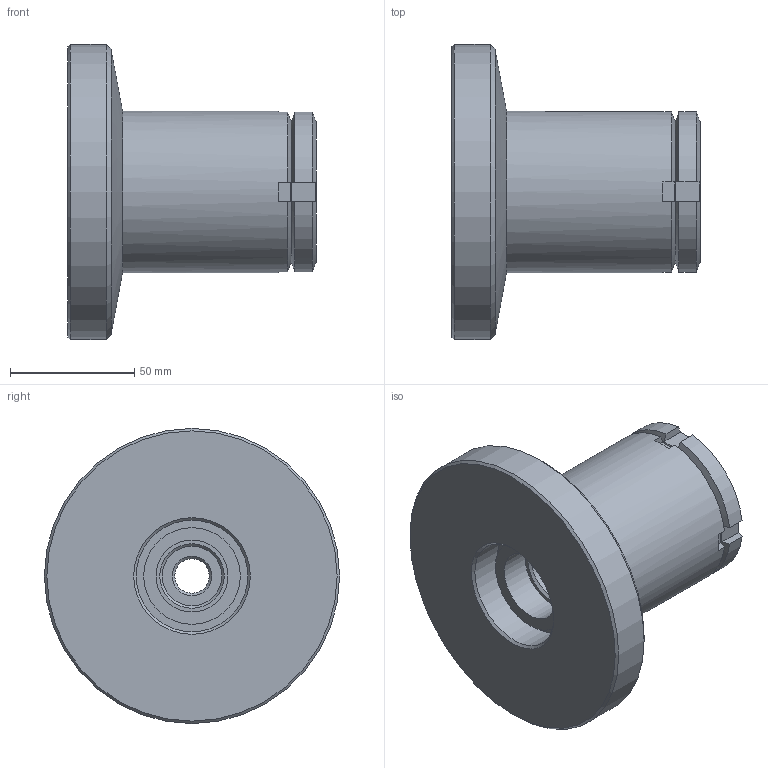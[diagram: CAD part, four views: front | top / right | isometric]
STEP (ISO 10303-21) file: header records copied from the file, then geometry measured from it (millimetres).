
FILE_DESCRIPTION( ( 'STEP AP203' ), '1' );
FILE_NAME( 'C:/Temp/Ganter_Step_05_03_2020/data/3_2/gn360/gn360_st/Levelling set GN 360-119-M16-148-A-ST (0-0).stp', '2020-03-13T05:41:51', ( 'License CC BY-ND 4.0' ), ( 'CADENAS' ), ' ', 'PARTsolutions', ' ' );
FILE_SCHEMA( ( 'CONFIG_CONTROL_DESIGN' ) );
Length unit declared in the file: millimetre
Products named in the file (4): Levelling set GN 360-119-M16-148-A-ST (0-0); _Levelling set GN 360-119-M16-148-A-ST (0-0)-1; _Levelling set GN 360-119-M16-148-A-ST (0-0)-2; _Levelling set GN 360-119-M16-148-A-ST (0-0)-3
Assembly tree (3 placements, depth 2):
  Levelling set GN 360-119-M16-148-A-ST (0-0)
    _Levelling set GN 360-119-M16-148-A-ST (0-0)-1
    _Levelling set GN 360-119-M16-148-A-ST (0-0)-2
    _Levelling set GN 360-119-M16-148-A-ST (0-0)-3
Bounding box: 100 x 119 x 119 mm (x, y, z)
Volume: 422404 mm3; surface area: 82371.7 mm2
Topology: 3 solids, 3 shells, 73 faces, 170 edges, 108 vertices
Faces by surface type: plane 39, cylinder 17, cone 14, sphere 2, torus 1
Full cylindrical faces by diameter (mm): 13.835 x1, 24 x1, 29 x1, 32 x1, 38 x1, 39 x1, 43 x1, 43.376 x1, 45 x2, 45.5 x1, 65 x1, 119 x1
Entity records: 2157 total; most frequent: CARTESIAN_POINT 519, DIRECTION 308, ORIENTED_EDGE 270, EDGE_CURVE 135, AXIS2_PLACEMENT_3D 132, EDGE_LOOP 114, VERTEX_POINT 103, FACE_OUTER_BOUND 89
